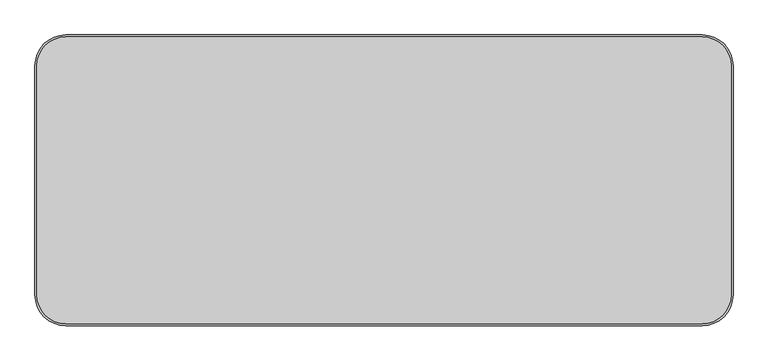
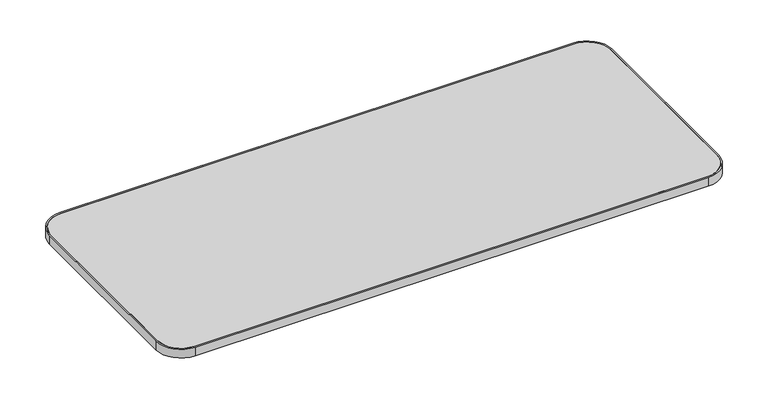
"""IFC4 building model written with IfcOpenShell, lengths in millimetres: furniture geometry, Steelcase - Answer Solution - Universal Table - Straight - 3mm Edge : 30D x 72W."""

from ifc_helpers import new_model, si_unit, point, frame, frame_2d, origin, place, context, project, spatial, polyline, circle_curve, trimmed, segment, composite_curve, outline, extrude, source, transform, mapped, element, save


def furniture_8e2370ad(model_context):
    return source(origin(), model_context, "Body", "SweptSolid", [
        extrude(outline(composite_curve([segment(polyline([(5.08, -680.72), (5.08, -81.28)]), True, "CONTINUOUS"), segment(trimmed(circle_curve(frame_2d((81.28, -81.28)), 76.2), [point((5.08, -81.28))], [point((81.28, -5.08))], False, "CARTESIAN"), True, "CONTINUOUS"), segment(polyline([(81.28, -5.08), (1747.52, -5.08)]), True, "CONTINUOUS"), segment(trimmed(circle_curve(frame_2d((1747.52, -81.28)), 76.2), [point((1747.52, -5.08))], [point((1823.72, -81.28))], False, "CARTESIAN"), True, "CONTINUOUS"), segment(polyline([(1823.72, -81.28), (1823.72, -680.72)]), True, "CONTINUOUS"), segment(trimmed(circle_curve(frame_2d((1747.52, -680.72)), 76.2), [point((1823.72, -680.72))], [point((1747.52, -756.92))], False, "CARTESIAN"), True, "CONTINUOUS"), segment(polyline([(1747.52, -756.92), (81.28, -756.92)]), True, "CONTINUOUS"), segment(trimmed(circle_curve(frame_2d((81.28, -680.72)), 76.2), [point((81.28, -756.92))], [point((5.08, -680.72))], False, "CARTESIAN"), True, "CONTINUOUS")], self_intersect=False)), frame((0.0, 0.0, 668.274), z_axis=(0.0, 0.0, 1.0), x_axis=(1.0, 0.0, 0.0)), (0.0, 0.0, 1.0), 30.0990349),
        extrude(outline(composite_curve([segment(polyline([(81.28, 0.0), (1747.52, 0.0)]), True, "CONTINUOUS"), segment(trimmed(circle_curve(frame_2d((1747.52, -81.28)), 81.28), [point((1747.52, 0.0))], [point((1828.8, -81.28))], False, "CARTESIAN"), True, "CONTINUOUS"), segment(polyline([(1828.8, -81.28), (1828.8, -680.72)]), True, "CONTINUOUS"), segment(trimmed(circle_curve(frame_2d((1747.52, -680.72)), 81.28), [point((1828.8, -680.72))], [point((1747.52, -762.0))], False, "CARTESIAN"), True, "CONTINUOUS"), segment(polyline([(1747.52, -762.0), (81.28, -762.0)]), True, "CONTINUOUS"), segment(trimmed(circle_curve(frame_2d((81.28, -680.72)), 81.28), [point((81.28, -762.0))], [point((0.0, -680.72))], False, "CARTESIAN"), True, "CONTINUOUS"), segment(polyline([(0.0, -680.72), (0.0, -81.28)]), True, "CONTINUOUS"), segment(trimmed(circle_curve(frame_2d((81.28, -81.28)), 81.28), [point((0.0, -81.28))], [point((81.28, 0.0))], False, "CARTESIAN"), True, "CONTINUOUS")], self_intersect=False), holes=[composite_curve([segment(trimmed(circle_curve(frame_2d((81.28, -81.28)), 76.2), [point((81.28, -5.08))], [point((5.08, -81.28))], True, "CARTESIAN"), True, "CONTINUOUS"), segment(polyline([(5.08, -81.28), (5.08, -680.72)]), True, "CONTINUOUS"), segment(trimmed(circle_curve(frame_2d((81.28, -680.72)), 76.2), [point((5.08, -680.72))], [point((81.28, -756.92))], True, "CARTESIAN"), True, "CONTINUOUS"), segment(polyline([(81.28, -756.92), (1747.52, -756.92)]), True, "CONTINUOUS"), segment(trimmed(circle_curve(frame_2d((1747.52, -680.72)), 76.2), [point((1747.52, -756.92))], [point((1823.72, -680.72))], True, "CARTESIAN"), True, "CONTINUOUS"), segment(polyline([(1823.72, -680.72), (1823.72, -81.28)]), True, "CONTINUOUS"), segment(trimmed(circle_curve(frame_2d((1747.52, -81.28)), 76.2), [point((1823.72, -81.28))], [point((1747.52, -5.08))], True, "CARTESIAN"), True, "CONTINUOUS"), segment(polyline([(1747.52, -5.08), (81.28, -5.08)]), True, "CONTINUOUS")], self_intersect=False)]), frame((0.0, 0.0, 668.274), z_axis=(0.0, 0.0, 1.0), x_axis=(1.0, 0.0, 0.0)), (0.0, 0.0, 1.0), 30.0990349),
    ])


if __name__ == "__main__":
    model = new_model("IFC4")
    model_context = context("Model", 3, world=origin())
    ifc_project = project(units=[si_unit("LENGTHUNIT", "METRE", prefix="MILLI")], contexts=[model_context])
    site = spatial("IfcSite", under=ifc_project)
    building = spatial("IfcBuilding", under=site)
    placement = place(None, origin())
    furniture_shape = furniture_8e2370ad(model_context)
    element("IfcFurniture", 1, ObjectType="Steelcase - Answer Solution - Universal Table - Straight - 3mm Edge : 30D x 72W", at=placement, inside=building, context=model_context, shape_type="MappedRepresentation", body=[
        mapped(furniture_shape, transform((0.0, 0.0, 0.0), x_axis=(1.0, 0.0, 0.0), y_axis=(0.0, 1.0, 0.0), z_axis=(0.0, 0.0, 1.0))),
    ])
    save(model, "model.ifc")
